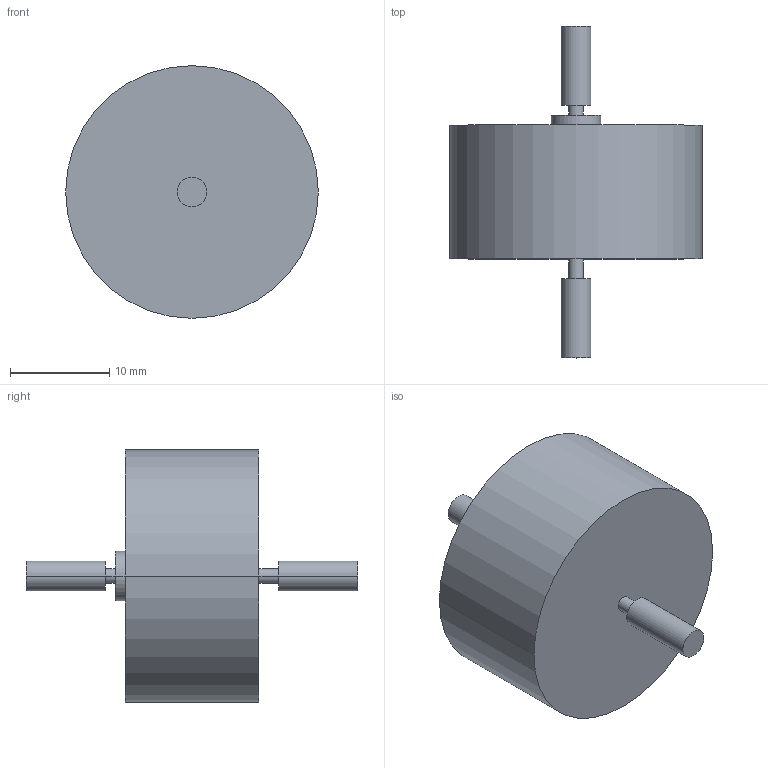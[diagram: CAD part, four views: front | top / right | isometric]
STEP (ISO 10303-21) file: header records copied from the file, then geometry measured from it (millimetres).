
FILE_DESCRIPTION (( 'STEP AP203' ), '1' );
FILE_NAME ('reb7-1kg.STEP', '2017-12-01T06:47:49', ( '' ), ( '' ), 'SwSTEP 2.0', 'SolidWorks 2016', '' );
FILE_SCHEMA (( 'CONFIG_CONTROL_DESIGN' ));
Length unit declared in the file: millimetre
Products named in the file (1): reb7-1kg
Bounding box: 25.5 x 33.5 x 25.5 mm (x, y, z)
Volume: 7032.6 mm3; surface area: 2304.8 mm2
Topology: 1 solids, 1 shells, 19 faces, 36 edges, 24 vertices
Faces by surface type: cylinder 12, plane 7
Entity records: 571 total; most frequent: DIRECTION 100, CARTESIAN_POINT 80, ORIENTED_EDGE 72, AXIS2_PLACEMENT_3D 44, EDGE_CURVE 36, VERTEX_POINT 24, EDGE_LOOP 24, CIRCLE 24
